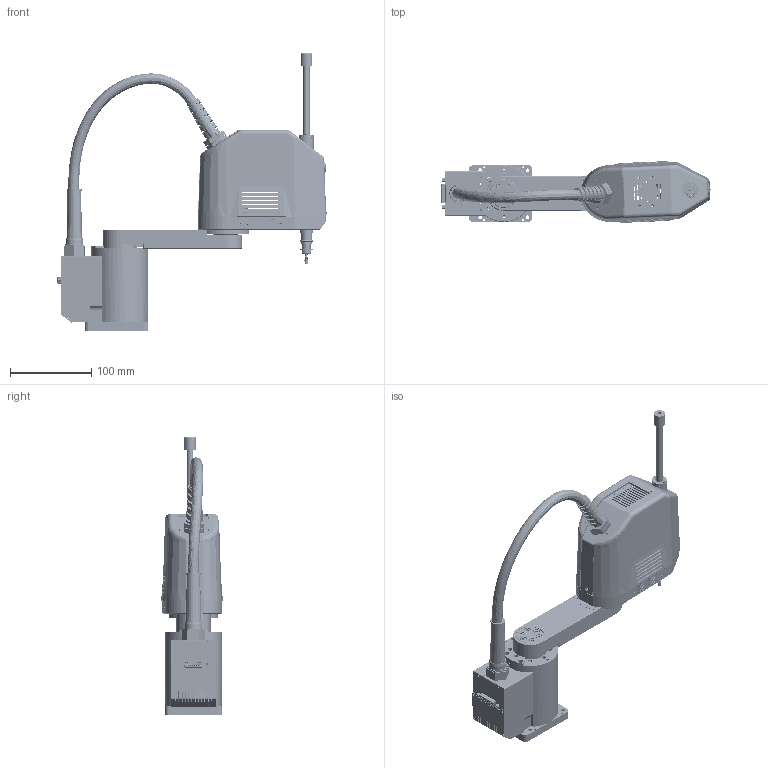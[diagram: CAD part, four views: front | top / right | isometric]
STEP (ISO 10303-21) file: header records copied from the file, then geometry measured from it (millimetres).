
FILE_DESCRIPTION (( 'STEP AP214' ), '1' );
FILE_NAME ('儂迮旋掛极230旋桯.STEP', '2025-05-21T10:52:09', ( '' ), ( '' ), 'SwSTEP 2.0', 'SolidWorks 2023', '' );
FILE_SCHEMA (( 'AUTOMOTIVE_DESIGN' ));
Length unit declared in the file: millimetre
Products named in the file (12): BB200头罩F带扇热孔-改风格B1QW-H; 机械臂底座金属防折弯头; afdQW-H; 机械臂头部HH版; 新款机械臂大臂230; 头罩压片QW-H; SC底板JH-SC-003-B2; 装配体11^机械臂本体230臂展; adsfgvbQW-H; Z轴; 机械臂本体230臂展; 机械臂底座230
Assembly tree (11 placements, depth 3):
  机械臂本体230臂展
    机械臂底座230
    机械臂头部HH版
    新款机械臂大臂230
    Z轴
    装配体11^机械臂本体230臂展
      SC底板JH-SC-003-B2
      adsfgvbQW-H
      BB200头罩F带扇热孔-改风格B1QW-H
      afdQW-H
      头罩压片QW-H
    机械臂底座金属防折弯头
Bounding box: 331.49 x 76.04 x 341.37 mm (x, y, z)
Volume: 158068.6 mm3; surface area: 409343.6 mm2
Topology: 5 solids, 149 shells, 3418 faces, 10256 edges, 6807 vertices
Faces by surface type: cylinder 1857, plane 1044, cone 289, bspline 112, torus 90, sphere 26
Entity records: 129409 total; most frequent: CARTESIAN_POINT 34408, DIRECTION 21039, ORIENTED_EDGE 17672, EDGE_CURVE 10204, AXIS2_PLACEMENT_3D 8065, VERTEX_POINT 6807, LINE 4909, VECTOR 4909
